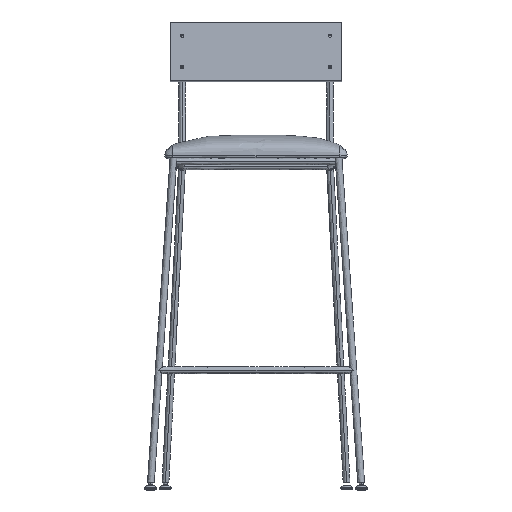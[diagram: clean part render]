
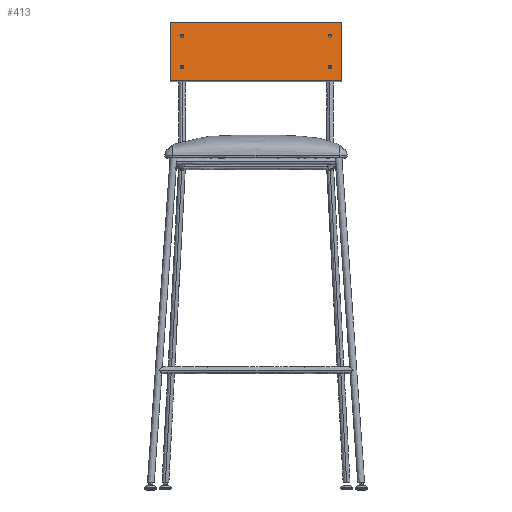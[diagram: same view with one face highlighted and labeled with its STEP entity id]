
A CAD part, front view. The second image highlights one B-rep face of the part: STEP entity #413.
In plain terms, the highlighted planar face has unit normal (0, -0.993, 0.122).
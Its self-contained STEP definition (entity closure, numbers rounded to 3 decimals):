
#19=FACE_BOUND('',#936,.T.);
#20=FACE_BOUND('',#937,.T.);
#21=FACE_BOUND('',#938,.T.);
#22=FACE_BOUND('',#939,.T.);
#51=PLANE('',#3994);
#413=ADVANCED_FACE('',(#673,#19,#20,#21,#22),#51,.T.);
#673=FACE_OUTER_BOUND('',#935,.T.);
#935=EDGE_LOOP('',(#1582,#1583,#1584,#1585));
#936=EDGE_LOOP('',(#1586,#1587));
#937=EDGE_LOOP('',(#1588,#1589));
#938=EDGE_LOOP('',(#1590,#1591));
#939=EDGE_LOOP('',(#1592,#1593));
#1582=ORIENTED_EDGE('',*,*,#2542,.F.);
#1583=ORIENTED_EDGE('',*,*,#2564,.F.);
#1584=ORIENTED_EDGE('',*,*,#2547,.F.);
#1585=ORIENTED_EDGE('',*,*,#2562,.F.);
#1586=ORIENTED_EDGE('',*,*,#2567,.F.);
#1587=ORIENTED_EDGE('',*,*,#2550,.F.);
#1588=ORIENTED_EDGE('',*,*,#2570,.F.);
#1589=ORIENTED_EDGE('',*,*,#2553,.F.);
#1590=ORIENTED_EDGE('',*,*,#2573,.F.);
#1591=ORIENTED_EDGE('',*,*,#2556,.F.);
#1592=ORIENTED_EDGE('',*,*,#2576,.F.);
#1593=ORIENTED_EDGE('',*,*,#2559,.F.);
#2542=EDGE_CURVE('',#3685,#3688,#3420,.T.);
#2547=EDGE_CURVE('',#3690,#3689,#3425,.T.);
#2550=EDGE_CURVE('',#3693,#3701,#3021,.T.);
#2553=EDGE_CURVE('',#3695,#3703,#3024,.T.);
#2556=EDGE_CURVE('',#3697,#3705,#3027,.T.);
#2559=EDGE_CURVE('',#3699,#3707,#3030,.T.);
#2562=EDGE_CURVE('',#3688,#3690,#3428,.T.);
#2564=EDGE_CURVE('',#3689,#3685,#3430,.T.);
#2567=EDGE_CURVE('',#3701,#3693,#3034,.T.);
#2570=EDGE_CURVE('',#3703,#3695,#3037,.T.);
#2573=EDGE_CURVE('',#3705,#3697,#3040,.T.);
#2576=EDGE_CURVE('',#3707,#3699,#3043,.T.);
#3021=(
BOUNDED_CURVE()
B_SPLINE_CURVE(2,(#20606,#20607,#20608,#20609,#20610),.UNSPECIFIED.,.F.,
 .F.)
B_SPLINE_CURVE_WITH_KNOTS((3,2,3),(-20.42,-15.315,
-10.21),.UNSPECIFIED.)
CURVE()
GEOMETRIC_REPRESENTATION_ITEM()
RATIONAL_B_SPLINE_CURVE((1.,0.707,1.,0.707,1.))
REPRESENTATION_ITEM('')
);
#3024=(
BOUNDED_CURVE()
B_SPLINE_CURVE(2,(#20618,#20619,#20620,#20621,#20622),.UNSPECIFIED.,.F.,
 .F.)
B_SPLINE_CURVE_WITH_KNOTS((3,2,3),(-20.42,-15.315,
-10.21),.UNSPECIFIED.)
CURVE()
GEOMETRIC_REPRESENTATION_ITEM()
RATIONAL_B_SPLINE_CURVE((1.,0.707,1.,0.707,1.))
REPRESENTATION_ITEM('')
);
#3027=(
BOUNDED_CURVE()
B_SPLINE_CURVE(2,(#20630,#20631,#20632,#20633,#20634),.UNSPECIFIED.,.F.,
 .F.)
B_SPLINE_CURVE_WITH_KNOTS((3,2,3),(-20.42,-15.315,
-10.21),.UNSPECIFIED.)
CURVE()
GEOMETRIC_REPRESENTATION_ITEM()
RATIONAL_B_SPLINE_CURVE((1.,0.707,1.,0.707,1.))
REPRESENTATION_ITEM('')
);
#3030=(
BOUNDED_CURVE()
B_SPLINE_CURVE(2,(#20642,#20643,#20644,#20645,#20646),.UNSPECIFIED.,.F.,
 .F.)
B_SPLINE_CURVE_WITH_KNOTS((3,2,3),(-20.42,-15.315,
-10.21),.UNSPECIFIED.)
CURVE()
GEOMETRIC_REPRESENTATION_ITEM()
RATIONAL_B_SPLINE_CURVE((1.,0.707,1.,0.707,1.))
REPRESENTATION_ITEM('')
);
#3034=(
BOUNDED_CURVE()
B_SPLINE_CURVE(2,(#20664,#20665,#20666,#20667,#20668),.UNSPECIFIED.,.F.,
 .F.)
B_SPLINE_CURVE_WITH_KNOTS((3,2,3),(-10.21,-5.105,
0.),.UNSPECIFIED.)
CURVE()
GEOMETRIC_REPRESENTATION_ITEM()
RATIONAL_B_SPLINE_CURVE((1.,0.707,1.,0.707,1.))
REPRESENTATION_ITEM('')
);
#3037=(
BOUNDED_CURVE()
B_SPLINE_CURVE(2,(#20676,#20677,#20678,#20679,#20680),.UNSPECIFIED.,.F.,
 .F.)
B_SPLINE_CURVE_WITH_KNOTS((3,2,3),(-10.21,-5.105,
0.),.UNSPECIFIED.)
CURVE()
GEOMETRIC_REPRESENTATION_ITEM()
RATIONAL_B_SPLINE_CURVE((1.,0.707,1.,0.707,1.))
REPRESENTATION_ITEM('')
);
#3040=(
BOUNDED_CURVE()
B_SPLINE_CURVE(2,(#20688,#20689,#20690,#20691,#20692),.UNSPECIFIED.,.F.,
 .F.)
B_SPLINE_CURVE_WITH_KNOTS((3,2,3),(-10.21,-5.105,
0.),.UNSPECIFIED.)
CURVE()
GEOMETRIC_REPRESENTATION_ITEM()
RATIONAL_B_SPLINE_CURVE((1.,0.707,1.,0.707,1.))
REPRESENTATION_ITEM('')
);
#3043=(
BOUNDED_CURVE()
B_SPLINE_CURVE(2,(#20700,#20701,#20702,#20703,#20704),.UNSPECIFIED.,.F.,
 .F.)
B_SPLINE_CURVE_WITH_KNOTS((3,2,3),(-10.21,-5.105,
0.),.UNSPECIFIED.)
CURVE()
GEOMETRIC_REPRESENTATION_ITEM()
RATIONAL_B_SPLINE_CURVE((1.,0.707,1.,0.707,1.))
REPRESENTATION_ITEM('')
);
#3420=B_SPLINE_CURVE_WITH_KNOTS('',1,(#20590,#20591),.UNSPECIFIED.,.F.,
 .F.,(2,2),(0.,120.),.UNSPECIFIED.);
#3425=B_SPLINE_CURVE_WITH_KNOTS('',1,(#20600,#20601),.UNSPECIFIED.,.F.,
 .F.,(2,2),(0.,120.),.UNSPECIFIED.);
#3428=B_SPLINE_CURVE_WITH_KNOTS('',1,(#20654,#20655),.UNSPECIFIED.,.F.,
 .F.,(2,2),(-854.,-506.),.UNSPECIFIED.);
#3430=B_SPLINE_CURVE_WITH_KNOTS('',1,(#20658,#20659),.UNSPECIFIED.,.F.,
 .F.,(2,2),(-354.,-6.),.UNSPECIFIED.);
#3685=VERTEX_POINT('',#20566);
#3688=VERTEX_POINT('',#20569);
#3689=VERTEX_POINT('',#20570);
#3690=VERTEX_POINT('',#20571);
#3693=VERTEX_POINT('',#20574);
#3695=VERTEX_POINT('',#20576);
#3697=VERTEX_POINT('',#20578);
#3699=VERTEX_POINT('',#20580);
#3701=VERTEX_POINT('',#20582);
#3703=VERTEX_POINT('',#20584);
#3705=VERTEX_POINT('',#20586);
#3707=VERTEX_POINT('',#20588);
#3994=AXIS2_PLACEMENT_3D('',#20524,#4077,$);
#4077=DIRECTION('',(0.,-0.993,0.122));
#20524=CARTESIAN_POINT('',(180.,362.024,830.894));
#20566=CARTESIAN_POINT('',(-174.,362.024,830.894));
#20569=CARTESIAN_POINT('',(-174.,376.648,950.));
#20570=CARTESIAN_POINT('',(174.,362.024,830.894));
#20571=CARTESIAN_POINT('',(174.,376.648,950.));
#20574=CARTESIAN_POINT('',(-150.,373.632,925.434));
#20576=CARTESIAN_POINT('',(-150.,365.832,861.912));
#20578=CARTESIAN_POINT('',(150.,373.632,925.434));
#20580=CARTESIAN_POINT('',(150.,365.832,861.912));
#20582=CARTESIAN_POINT('',(-150.,372.84,918.983));
#20584=CARTESIAN_POINT('',(-150.,365.04,855.46));
#20586=CARTESIAN_POINT('',(150.,372.84,918.983));
#20588=CARTESIAN_POINT('',(150.,365.04,855.46));
#20590=CARTESIAN_POINT('',(-174.,362.024,830.894));
#20591=CARTESIAN_POINT('',(-174.,376.648,950.));
#20600=CARTESIAN_POINT('',(174.,376.648,950.));
#20601=CARTESIAN_POINT('',(174.,362.024,830.894));
#20606=CARTESIAN_POINT('',(-150.,373.632,925.434));
#20607=CARTESIAN_POINT('',(-153.25,373.632,925.434));
#20608=CARTESIAN_POINT('',(-153.25,373.236,922.209));
#20609=CARTESIAN_POINT('',(-153.25,372.84,918.983));
#20610=CARTESIAN_POINT('',(-150.,372.84,918.983));
#20618=CARTESIAN_POINT('',(-150.,365.832,861.912));
#20619=CARTESIAN_POINT('',(-153.25,365.832,861.912));
#20620=CARTESIAN_POINT('',(-153.25,365.436,858.686));
#20621=CARTESIAN_POINT('',(-153.25,365.04,855.46));
#20622=CARTESIAN_POINT('',(-150.,365.04,855.46));
#20630=CARTESIAN_POINT('',(150.,373.632,925.434));
#20631=CARTESIAN_POINT('',(146.75,373.632,925.434));
#20632=CARTESIAN_POINT('',(146.75,373.236,922.209));
#20633=CARTESIAN_POINT('',(146.75,372.84,918.983));
#20634=CARTESIAN_POINT('',(150.,372.84,918.983));
#20642=CARTESIAN_POINT('',(150.,365.832,861.912));
#20643=CARTESIAN_POINT('',(146.75,365.832,861.912));
#20644=CARTESIAN_POINT('',(146.75,365.436,858.686));
#20645=CARTESIAN_POINT('',(146.75,365.04,855.46));
#20646=CARTESIAN_POINT('',(150.,365.04,855.46));
#20654=CARTESIAN_POINT('',(-174.,376.648,950.));
#20655=CARTESIAN_POINT('',(174.,376.648,950.));
#20658=CARTESIAN_POINT('',(174.,362.024,830.894));
#20659=CARTESIAN_POINT('',(-174.,362.024,830.894));
#20664=CARTESIAN_POINT('',(-150.,372.84,918.983));
#20665=CARTESIAN_POINT('',(-146.75,372.84,918.983));
#20666=CARTESIAN_POINT('',(-146.75,373.236,922.209));
#20667=CARTESIAN_POINT('',(-146.75,373.632,925.434));
#20668=CARTESIAN_POINT('',(-150.,373.632,925.434));
#20676=CARTESIAN_POINT('',(-150.,365.04,855.46));
#20677=CARTESIAN_POINT('',(-146.75,365.04,855.46));
#20678=CARTESIAN_POINT('',(-146.75,365.436,858.686));
#20679=CARTESIAN_POINT('',(-146.75,365.832,861.912));
#20680=CARTESIAN_POINT('',(-150.,365.832,861.912));
#20688=CARTESIAN_POINT('',(150.,372.84,918.983));
#20689=CARTESIAN_POINT('',(153.25,372.84,918.983));
#20690=CARTESIAN_POINT('',(153.25,373.236,922.209));
#20691=CARTESIAN_POINT('',(153.25,373.632,925.434));
#20692=CARTESIAN_POINT('',(150.,373.632,925.434));
#20700=CARTESIAN_POINT('',(150.,365.04,855.46));
#20701=CARTESIAN_POINT('',(153.25,365.04,855.46));
#20702=CARTESIAN_POINT('',(153.25,365.436,858.686));
#20703=CARTESIAN_POINT('',(153.25,365.832,861.912));
#20704=CARTESIAN_POINT('',(150.,365.832,861.912));
